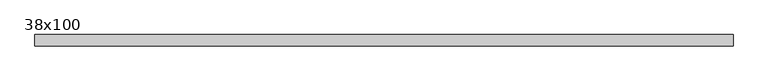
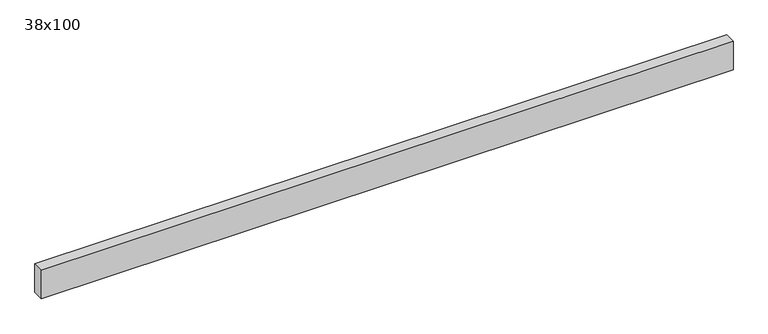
"""IFC4 building model written with IfcOpenShell, lengths in millimetres: beam geometry, Poutre - Bois de construction de dimensions courantes : 38x100."""

from ifc_helpers import new_model, si_unit, frame, origin, place, context, project, spatial, polyline, outline, extrude, source, transform, mapped, element, save


def beam_38x100_8e2eedc8(model_context):
    return source(origin(), model_context, "Body", "SweptSolid", [
        extrude(outline(polyline([(1161.0, 19.05), (1161.0, -19.05), (-1161.0, -19.05), (-1161.0, 19.05), (1161.0, 19.05)])), frame((0.0, 0.0, -50.0), z_axis=(0.0, 0.0, 1.0), x_axis=(1.0, 0.0, 0.0)), (0.0, 0.0, 1.0), 100.0),
    ])


if __name__ == "__main__":
    model = new_model("IFC4")
    model_context = context("Model", 3, world=origin())
    ifc_project = project(units=[si_unit("LENGTHUNIT", "METRE", prefix="MILLI")], contexts=[model_context])
    site = spatial("IfcSite", under=ifc_project)
    building = spatial("IfcBuilding", under=site)
    placement = place(None, origin())
    beam_38x100_shape = beam_38x100_8e2eedc8(model_context)
    element("IfcBeam", 1, ObjectType="Poutre - Bois de construction de dimensions courantes : 38x100", at=placement, inside=building, context=model_context, shape_type="MappedRepresentation", body=[
        mapped(beam_38x100_shape, transform((0.0, 0.0, 0.0), x_axis=(1.0, 0.0, 0.0), y_axis=(0.0, 1.0, 0.0), z_axis=(0.0, 0.0, 1.0))),
    ])
    save(model, "model.ifc")
